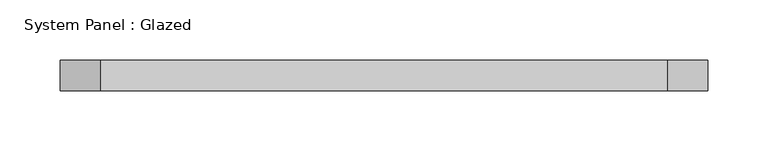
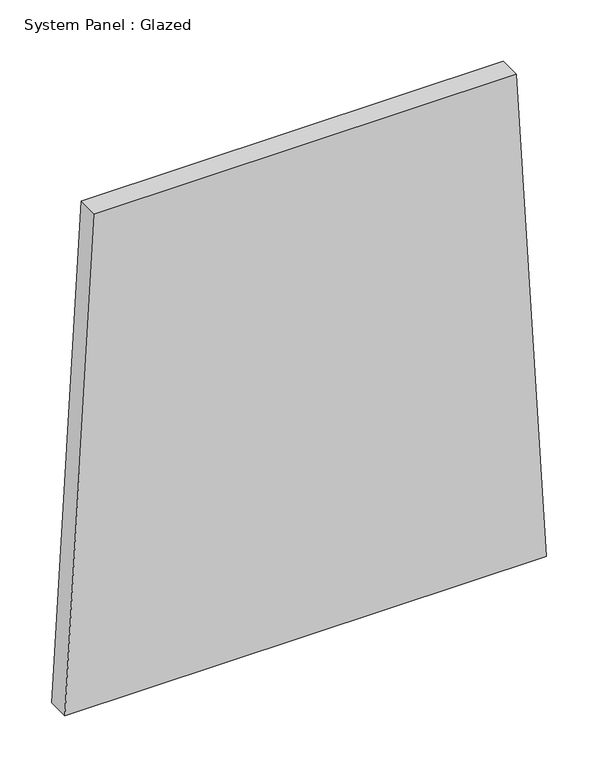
"""IFC4 building model written with IfcOpenShell, lengths in millimetres: plate geometry, System Panel : Glazed."""

from ifc_helpers import new_model, si_unit, frame, origin, place, context, project, spatial, polyline, outline, extrude, source, transform, mapped, element, save


def system_panel_glazed_ba917089(model_context):
    return source(origin(), model_context, "Body", "SweptSolid", [
        extrude(outline(polyline([(0.0, -269.7625593), (0.0, 269.7625593), (583.2033204, 236.3720271), (583.2033204, -236.3720271), (0.0, -269.7625593)])), frame((0.0, 19.05, 0.0), z_axis=(0.0, 1.0, 0.0), x_axis=(0.0, 0.0, 1.0)), (0.0, 0.0, 1.0), 25.4),
    ])


if __name__ == "__main__":
    model = new_model("IFC4")
    model_context = context("Model", 3, world=origin())
    ifc_project = project(units=[si_unit("LENGTHUNIT", "METRE", prefix="MILLI")], contexts=[model_context])
    site = spatial("IfcSite", under=ifc_project)
    building = spatial("IfcBuilding", under=site)
    placement = place(None, origin())
    system_panel_glazed_shape = system_panel_glazed_ba917089(model_context)
    element("IfcPlate", 1, ObjectType="System Panel : Glazed", at=placement, inside=building, context=model_context, shape_type="MappedRepresentation", body=[
        mapped(system_panel_glazed_shape, transform((0.0, 0.0, 0.0), x_axis=(1.0, 0.0, 0.0), y_axis=(0.0, 1.0, 0.0), z_axis=(0.0, 0.0, 1.0))),
    ])
    save(model, "model.ifc")
